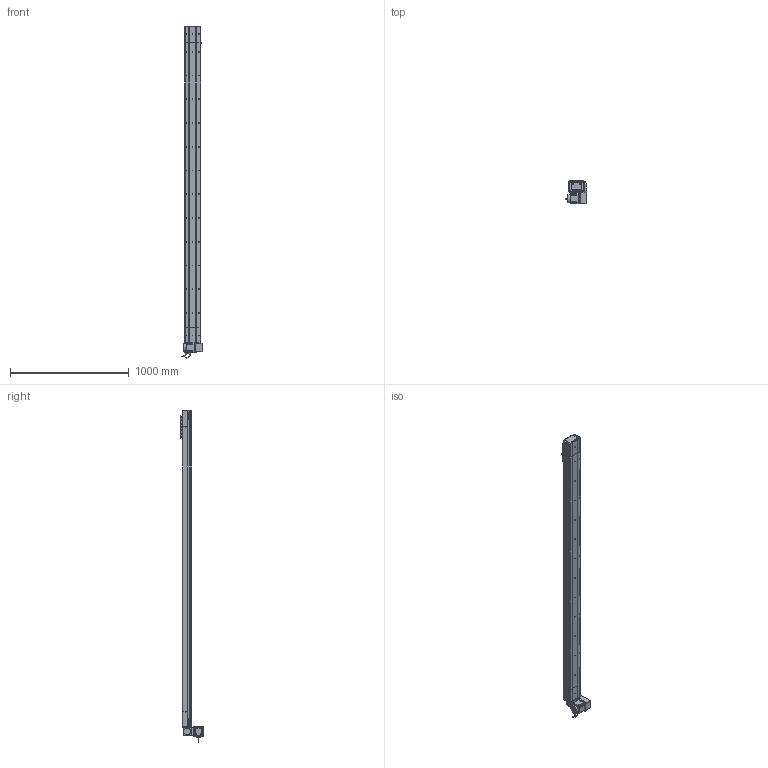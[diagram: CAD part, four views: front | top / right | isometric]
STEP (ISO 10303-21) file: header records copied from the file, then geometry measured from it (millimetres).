
FILE_DESCRIPTION (( 'STEP AP214' ), '1' );
FILE_NAME ('D14 CBH S2400 LU.STEP', '2010-06-30T07:23:50', ( 'Conseil Régional Haute-Normandie' ), ( 'Conseil Régional Haute-Normandie' ), 'SwSTEP 2.0', 'SolidWorks 2010', '' );
FILE_SCHEMA (( 'AUTOMOTIVE_DESIGN' ));
Length unit declared in the file: millimetre
Products named in the file (28): couvercle tail CBH D14; chariot D14; corps tail  CBH d14 B; corps CBH S2400; Course CBH S2400; D14 CBH S2400 LU; plaque de bout tail CBH d14; Tail CBH D14 B; couvercle CBH S2400; Conecteur_Default; Conecteur2_Default; codeur GMB 90 70 310; corps GMB 90 70 310; avant GMB 90 70 310; GMB 90 70 310; couvercle Head D14 CBH; vis CHC M7; plaque de bout Head D14 CBH; Support moteur Head D14 CBH; plaque fermeture Head D14 CBH; Vis CHC M8; plaque de maintient CBH D14; corps Head D14 CBH; Head D14 CBH; charriot inférieur D14; Head D14 CBH LU; vis CHC M5; chariot supérieur D14
Assembly tree (51 placements, depth 4):
  D14 CBH S2400 LU
    chariot D14
      vis CHC M7  x8
      charriot inférieur D14
      vis CHC M5  x4
      chariot supérieur D14
    Head D14 CBH LU
      GMB 90 70 310
        codeur GMB 90 70 310
        Conecteur2_Default
        Conecteur_Default
        corps GMB 90 70 310
        avant GMB 90 70 310
      plaque fermeture Head D14 CBH  x3
      Head D14 CBH
        vis CHC M7  x4
        Vis CHC M8  x2
        plaque de bout Head D14 CBH
        plaque de maintient CBH D14
        corps Head D14 CBH
        couvercle Head D14 CBH
      Support moteur Head D14 CBH
    Tail CBH D14 B
      Vis CHC M8  x2
      corps tail  CBH d14 B
      vis CHC M7  x4
      plaque de bout tail CBH d14
      plaque de maintient CBH D14
      couvercle tail CBH D14
    Course CBH S2400
      corps CBH S2400
      couvercle CBH S2400
Bounding box: 171.5 x 195.75 x 2795.95 mm (x, y, z)
Volume: 7752427.5 mm3; surface area: 2627397.6 mm2
Topology: 51 solids, 51 shells, 2504 faces, 6494 edges, 4266 vertices
Faces by surface type: plane 1371, bspline 538, cylinder 482, torus 61, cone 48, sphere 4
Entity records: 110913 total; most frequent: CARTESIAN_POINT 58442, ORIENTED_EDGE 11284, DIRECTION 8619, EDGE_CURVE 5642, VERTEX_POINT 3730, VECTOR 3717, LINE 3717, AXIS2_PLACEMENT_3D 2451
